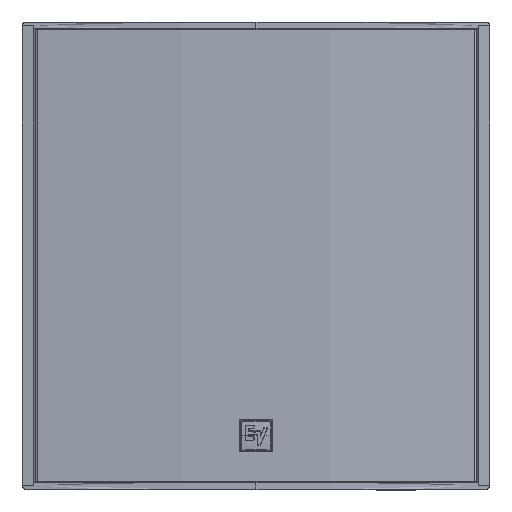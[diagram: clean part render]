
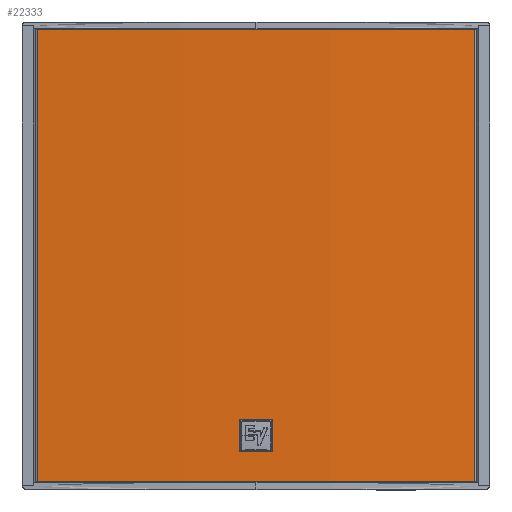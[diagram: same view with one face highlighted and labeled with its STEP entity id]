
A CAD part, top view. The second image highlights one B-rep face of the part: STEP entity #22333.
In plain terms, the highlighted cylindrical face has radius 3786.2 mm (diameter 7572.4 mm), a partial arc.
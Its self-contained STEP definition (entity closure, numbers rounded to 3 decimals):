
#1093 = VERTEX_POINT ( 'NONE', #10063 ) ;
#1172 = EDGE_CURVE ( 'NONE', #14134, #1093, #29004, .T. ) ;
#1718 = LINE ( 'NONE', #6289, #6625 ) ;
#1827 = DIRECTION ( 'NONE',  ( 0., -1., 0. ) ) ;
#2132 = LINE ( 'NONE', #3831, #22155 ) ;
#2760 = AXIS2_PLACEMENT_3D ( 'NONE', #7931, #15679, #22812 ) ;
#3831 = CARTESIAN_POINT ( 'NONE',  ( 359.632, 371.655, -15.518 ) ) ;
#3996 = AXIS2_PLACEMENT_3D ( 'NONE', #25155, #11165, #13597 ) ;
#4866 = EDGE_CURVE ( 'NONE', #26389, #14134, #1718, .T. ) ;
#5278 = CARTESIAN_POINT ( 'NONE',  ( -359.632, -371.655, -15.518 ) ) ;
#5480 = EDGE_CURVE ( 'NONE', #25563, #1093, #2132, .T. ) ;
#5818 = CARTESIAN_POINT ( 'NONE',  ( -359.632, 371.655, -15.518 ) ) ;
#6289 = CARTESIAN_POINT ( 'NONE',  ( -359.632, 371.655, -15.518 ) ) ;
#6625 = VECTOR ( 'NONE', #23176, 1000. ) ;
#7931 = CARTESIAN_POINT ( 'NONE',  ( 0., -371.655, -3784.6 ) ) ;
#9713 = EDGE_CURVE ( 'NONE', #26389, #25563, #22451, .T. ) ;
#10063 = CARTESIAN_POINT ( 'NONE',  ( 359.632, -371.655, -15.518 ) ) ;
#10744 = ORIENTED_EDGE ( 'NONE', *, *, #9713, .F. ) ;
#11165 = DIRECTION ( 'NONE',  ( 0., 1., 0. ) ) ;
#11515 = CARTESIAN_POINT ( 'NONE',  ( 0., 371.655, -3784.6 ) ) ;
#13597 = DIRECTION ( 'NONE',  ( 1., 0., 0. ) ) ;
#14134 = VERTEX_POINT ( 'NONE', #5278 ) ;
#14270 = DIRECTION ( 'NONE',  ( 0., 0., -1. ) ) ;
#15317 = CARTESIAN_POINT ( 'NONE',  ( 359.632, 371.655, -15.518 ) ) ;
#15679 = DIRECTION ( 'NONE',  ( 0., 1., 0. ) ) ;
#20632 = CYLINDRICAL_SURFACE ( 'NONE', #29239, 3786.2 ) ;
#20940 = DIRECTION ( 'NONE',  ( 0., -1., 0. ) ) ;
#21252 = FACE_OUTER_BOUND ( 'NONE', #25922, .T. ) ;
#22155 = VECTOR ( 'NONE', #1827, 1000. ) ;
#22333 = ADVANCED_FACE ( 'NONE', ( #21252 ), #20632, .T. ) ;
#22451 = CIRCLE ( 'NONE', #3996, 3786.2 ) ;
#22812 = DIRECTION ( 'NONE',  ( 1., 0., 0. ) ) ;
#23176 = DIRECTION ( 'NONE',  ( 0., -1., 0. ) ) ;
#24182 = ORIENTED_EDGE ( 'NONE', *, *, #4866, .T. ) ;
#24578 = ORIENTED_EDGE ( 'NONE', *, *, #5480, .F. ) ;
#25155 = CARTESIAN_POINT ( 'NONE',  ( 0., 371.655, -3784.6 ) ) ;
#25563 = VERTEX_POINT ( 'NONE', #15317 ) ;
#25922 = EDGE_LOOP ( 'NONE', ( #26022, #24578, #10744, #24182 ) ) ;
#26022 = ORIENTED_EDGE ( 'NONE', *, *, #1172, .T. ) ;
#26389 = VERTEX_POINT ( 'NONE', #5818 ) ;
#29004 = CIRCLE ( 'NONE', #2760, 3786.2 ) ;
#29239 = AXIS2_PLACEMENT_3D ( 'NONE', #11515, #20940, #14270 ) ;
